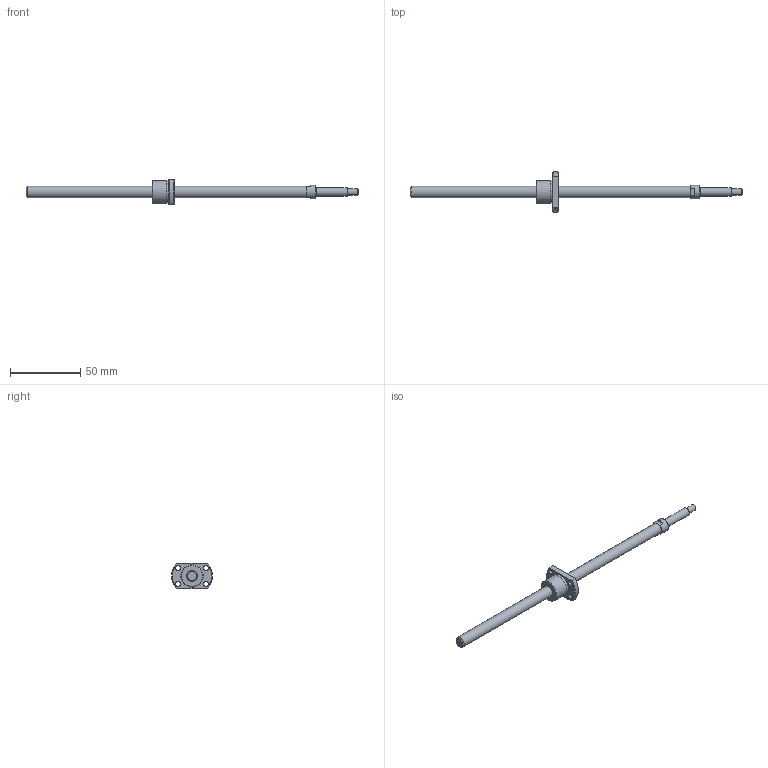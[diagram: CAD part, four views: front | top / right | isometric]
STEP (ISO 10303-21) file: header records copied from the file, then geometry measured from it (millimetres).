
FILE_DESCRIPTION(/* description */ ('STEP AP214'),/* implementation_level */ '2;1');
FILE_NAME(/* name */ 'SRT0802.5-196R237C7A0X(90Processing)',/* time_stamp */ '2026-08-04T19:59:02+02:00',/* author */ ('License CC BY-ND 4.0'),/* organization */ ('CADENAS'),/* preprocessor_version */ 'ST-DEVELOPER v20',/* originating_system */ 'PARTsolutions',/* authorisation */ ' ');
FILE_SCHEMA (('AUTOMOTIVE_DESIGN {1 0 10303 214 3 1 1}'));
Length unit declared in the file: millimetre
Products named in the file (3): SRT0802.5-196R237C7A0X(90Processing); SRT0802.5-196R270ACt7Processing37Shaft; SRT0802.5Nut
Assembly tree (2 placements, depth 2):
  SRT0802.5-196R237C7A0X(90Processing)
    SRT0802.5-196R270ACt7Processing37Shaft
    SRT0802.5Nut
Bounding box: 237 x 29 x 18 mm (x, y, z)
Volume: 14658.8 mm3; surface area: 8164.7 mm2
Topology: 2 solids, 2 shells, 39 faces, 88 edges, 57 vertices
Faces by surface type: plane 16, cylinder 13, cone 9, torus 1
Full cylindrical faces by diameter (mm): 3.4 x4, 4.5 x1, 6 x1, 8 x2, 9.5 x1, 15.7 x1, 16 x1
Entity records: 1075 total; most frequent: CARTESIAN_POINT 184, DIRECTION 182, ORIENTED_EDGE 132, AXIS2_PLACEMENT_3D 82, EDGE_LOOP 70, FACE_BOUND 70, EDGE_CURVE 66, VERTEX_POINT 52
